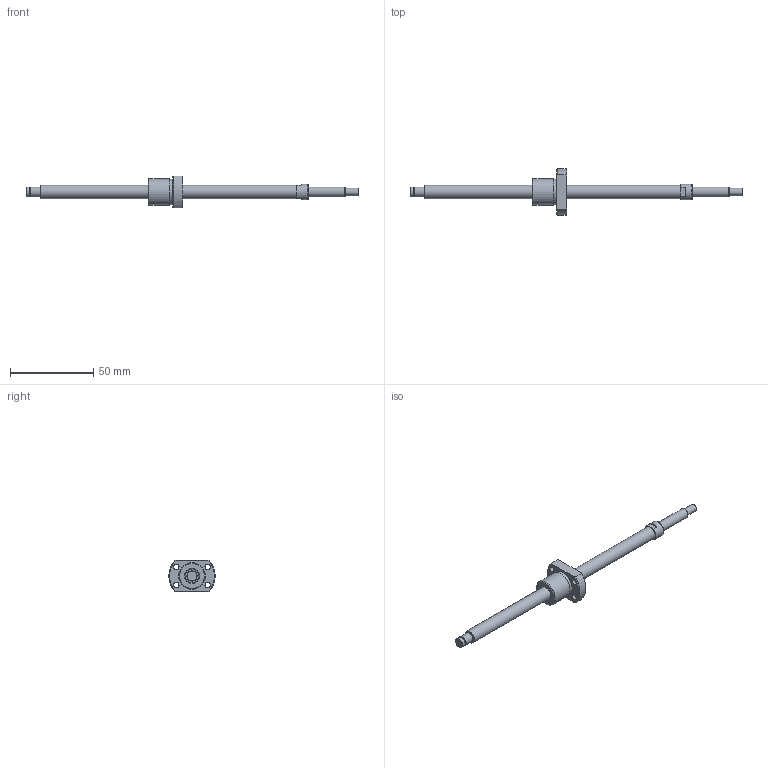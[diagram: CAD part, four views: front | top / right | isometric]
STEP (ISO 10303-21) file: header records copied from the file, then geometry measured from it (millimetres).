
FILE_DESCRIPTION(/* description */ ('STEP AP214'),/* implementation_level */ '2;1');
FILE_NAME(/* name */ 'NSGF0802Z-150R200C3-0-T-S-T-B-(64.5-S)',/* time_stamp */ '2026-08-24T20:11:28+02:00',/* author */ ('License CC BY-ND 4.0'),/* organization */ ('CADENAS'),/* preprocessor_version */ 'ST-DEVELOPER v20',/* originating_system */ 'PARTsolutions',/* authorisation */ ' ');
FILE_SCHEMA (('AUTOMOTIVE_DESIGN {1 0 10303 214 3 1 1}'));
Length unit declared in the file: millimetre
Products named in the file (3): NSGF0802Z-150R200C3-0-T-S-T-B-(64.5-S); NSG0802Z-150R20023_(T-S_T-B_2)-2; NSGF0802Z-1
Assembly tree (2 placements, depth 2):
  NSGF0802Z-150R200C3-0-T-S-T-B-(64.5-S)
    NSG0802Z-150R20023_(T-S_T-B_2)-2
    NSGF0802Z-1
Bounding box: 200 x 27.9 x 19 mm (x, y, z)
Volume: 13351.7 mm3; surface area: 7812 mm2
Topology: 2 solids, 2 shells, 47 faces, 99 edges, 64 vertices
Faces by surface type: plane 20, cylinder 17, cone 8, torus 2
Full cylindrical faces by diameter (mm): 3.4 x4, 4.5 x1, 5.7 x1, 6 x3, 8 x2, 9.5 x1, 13 x1, 15.5 x1, 16 x1
Entity records: 1235 total; most frequent: DIRECTION 214, CARTESIAN_POINT 208, ORIENTED_EDGE 148, AXIS2_PLACEMENT_3D 98, EDGE_LOOP 86, FACE_BOUND 86, EDGE_CURVE 74, VERTEX_POINT 60
